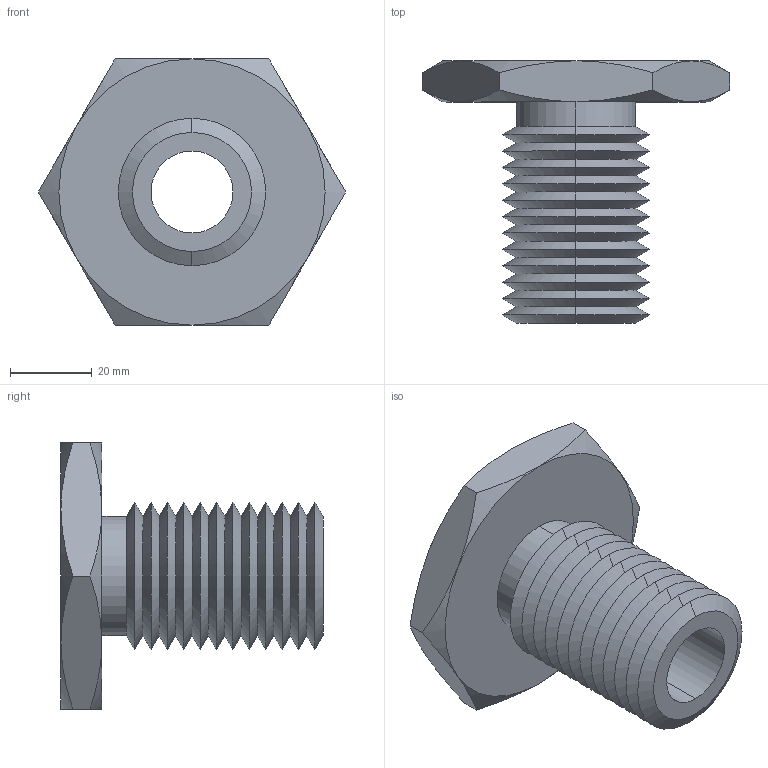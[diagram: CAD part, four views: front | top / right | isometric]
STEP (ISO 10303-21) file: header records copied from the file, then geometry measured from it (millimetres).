
FILE_DESCRIPTION (( 'STEP AP203' ), '1' );
FILE_NAME ('63302.W0036_M20x2,5.step', '2013-12-08T11:10:00', ( 'User' ), ( '' ), 'SwSTEP 2.0', 'SolidWorks 2009', '' );
FILE_SCHEMA (( 'CONFIG_CONTROL_DESIGN' ));
Length unit declared in the file: millimetre
Products named in the file (1): 63302.W0036_M20x2,5
Bounding box: 75.06 x 64 x 65 mm (x, y, z)
Volume: 59715.4 mm3; surface area: 22896.2 mm2
Topology: 1 solids, 1 shells, 75 faces, 154 edges, 82 vertices
Faces by surface type: cone 62, plane 9, cylinder 4
Entity records: 2139 total; most frequent: CARTESIAN_POINT 496, DIRECTION 352, ORIENTED_EDGE 308, EDGE_CURVE 154, AXIS2_PLACEMENT_3D 146, VERTEX_POINT 82, EDGE_LOOP 78, ADVANCED_FACE 75
